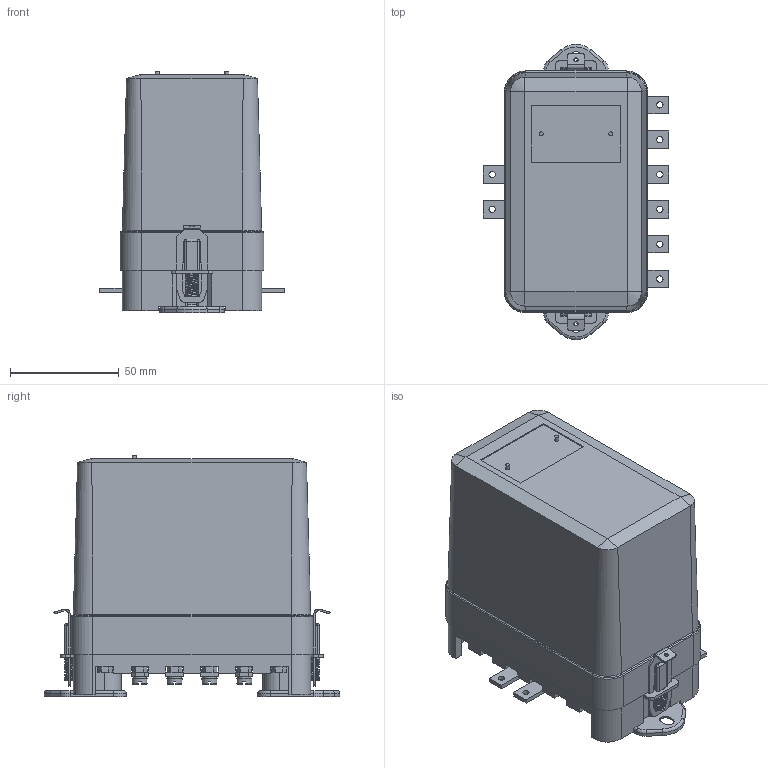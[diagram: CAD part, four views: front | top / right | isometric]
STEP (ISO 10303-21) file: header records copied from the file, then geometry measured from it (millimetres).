
FILE_DESCRIPTION(('STEP AP214'), '1');
FILE_NAME('ÐÑÂ-01-4 ï.ï', '', ('UNSPECIFIED'), ('UNSPECIFIED'), 'ASCON STEP Converter 1.3', 'ASCON Math Kernel', '');
FILE_SCHEMA(('AUTOMOTIVE_DESIGN { 1 0 10303 214 3 1 1}'));
Length unit declared in the file: millimetre
Bounding box: 85 x 135.6 x 110.8 mm (x, y, z)
Volume: 138697.6 mm3; surface area: 107359.5 mm2
Topology: 1 solids, 1 shells, 1232 faces, 3349 edges, 2117 vertices
Faces by surface type: plane 793, cylinder 295, torus 86, bspline 30, cone 22, sphere 6
Full cylindrical faces by diameter (mm): 1.9 x2, 2 x2, 2.5 x2, 2.7 x2, 2.917 x8, 3.242 x12, 3.5 x2, 4 x20, 4.134 x2, 4.3 x8, 5 x2, 5.3 x2, 5.5 x2, 9.5 x2
Entity records: 60622 total; most frequent: CARTESIAN_POINT 20072, ORIENTED_EDGE 6390, DIRECTION 6177, EDGE_CURVE 3195, LINE 2119, VECTOR 2119, VERTEX_POINT 2111, AXIS2_PLACEMENT_3D 2029
